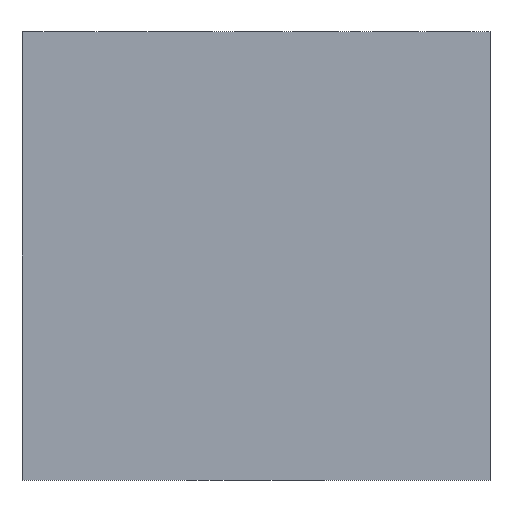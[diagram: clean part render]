
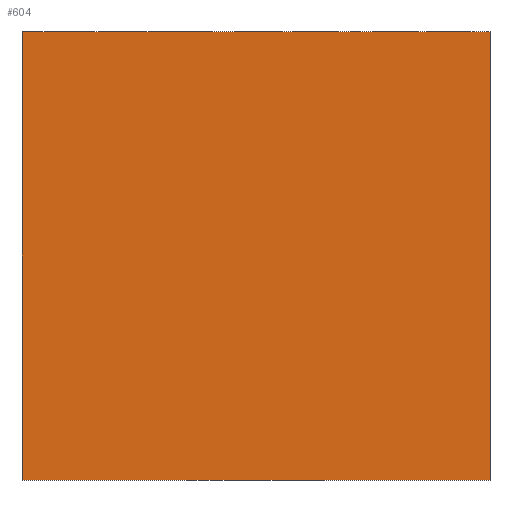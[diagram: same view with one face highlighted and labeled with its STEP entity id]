
A CAD part, front view. The second image highlights one B-rep face of the part: STEP entity #604.
In plain terms, the highlighted planar face has unit normal (0, -1, 0).
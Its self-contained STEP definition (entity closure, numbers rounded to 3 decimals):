
#32 = PLANE('',#33);
#33 = AXIS2_PLACEMENT_3D('',#34,#35,#36);
#34 = CARTESIAN_POINT('',(30.,-61.,19.));
#35 = DIRECTION('',(1.,0.,0.));
#36 = DIRECTION('',(0.,0.,1.));
#128 = PLANE('',#129);
#129 = AXIS2_PLACEMENT_3D('',#130,#131,#132);
#130 = CARTESIAN_POINT('',(30.,-99.,26.5));
#131 = DIRECTION('',(0.,0.,1.));
#132 = DIRECTION('',(1.,0.,0.));
#219 = VERTEX_POINT('',#220);
#220 = CARTESIAN_POINT('',(30.,-99.,26.5));
#241 = EDGE_CURVE('',#242,#219,#244,.T.);
#242 = VERTEX_POINT('',#243);
#243 = CARTESIAN_POINT('',(30.,-99.,15.));
#244 = SURFACE_CURVE('',#245,(#249,#256),.PCURVE_S1.);
#245 = LINE('',#246,#247);
#246 = CARTESIAN_POINT('',(30.,-99.,15.));
#247 = VECTOR('',#248,1.);
#248 = DIRECTION('',(0.,0.,1.));
#249 = PCURVE('',#32,#250);
#250 = DEFINITIONAL_REPRESENTATION('',(#251),#255);
#251 = LINE('',#252,#253);
#252 = CARTESIAN_POINT('',(-4.,38.));
#253 = VECTOR('',#254,1.);
#254 = DIRECTION('',(1.,0.));
#255 = ( GEOMETRIC_REPRESENTATION_CONTEXT(2) 
PARAMETRIC_REPRESENTATION_CONTEXT() REPRESENTATION_CONTEXT('2D SPACE',''
  ) );
#256 = PCURVE('',#257,#262);
#257 = PLANE('',#258);
#258 = AXIS2_PLACEMENT_3D('',#259,#260,#261);
#259 = CARTESIAN_POINT('',(30.,-99.,19.));
#260 = DIRECTION('',(0.,1.,0.));
#261 = DIRECTION('',(0.,0.,1.));
#262 = DEFINITIONAL_REPRESENTATION('',(#263),#267);
#263 = LINE('',#264,#265);
#264 = CARTESIAN_POINT('',(-4.,0.));
#265 = VECTOR('',#266,1.);
#266 = DIRECTION('',(1.,0.));
#267 = ( GEOMETRIC_REPRESENTATION_CONTEXT(2) 
PARAMETRIC_REPRESENTATION_CONTEXT() REPRESENTATION_CONTEXT('2D SPACE',''
  ) );
#285 = PLANE('',#286);
#286 = AXIS2_PLACEMENT_3D('',#287,#288,#289);
#287 = CARTESIAN_POINT('',(30.,-99.,15.));
#288 = DIRECTION('',(0.,0.,1.));
#289 = DIRECTION('',(1.,0.,0.));
#372 = PLANE('',#373);
#373 = AXIS2_PLACEMENT_3D('',#374,#375,#376);
#374 = CARTESIAN_POINT('',(42.,-61.,19.));
#375 = DIRECTION('',(1.,0.,0.));
#376 = DIRECTION('',(0.,0.,1.));
#529 = EDGE_CURVE('',#242,#530,#532,.T.);
#530 = VERTEX_POINT('',#531);
#531 = CARTESIAN_POINT('',(42.,-99.,15.));
#532 = SURFACE_CURVE('',#533,(#537,#544),.PCURVE_S1.);
#533 = LINE('',#534,#535);
#534 = CARTESIAN_POINT('',(30.,-99.,15.));
#535 = VECTOR('',#536,1.);
#536 = DIRECTION('',(1.,0.,0.));
#537 = PCURVE('',#285,#538);
#538 = DEFINITIONAL_REPRESENTATION('',(#539),#543);
#539 = LINE('',#540,#541);
#540 = CARTESIAN_POINT('',(0.,0.));
#541 = VECTOR('',#542,1.);
#542 = DIRECTION('',(1.,0.));
#543 = ( GEOMETRIC_REPRESENTATION_CONTEXT(2) 
PARAMETRIC_REPRESENTATION_CONTEXT() REPRESENTATION_CONTEXT('2D SPACE',''
  ) );
#544 = PCURVE('',#257,#545);
#545 = DEFINITIONAL_REPRESENTATION('',(#546),#550);
#546 = LINE('',#547,#548);
#547 = CARTESIAN_POINT('',(-4.,0.));
#548 = VECTOR('',#549,1.);
#549 = DIRECTION('',(0.,1.));
#550 = ( GEOMETRIC_REPRESENTATION_CONTEXT(2) 
PARAMETRIC_REPRESENTATION_CONTEXT() REPRESENTATION_CONTEXT('2D SPACE',''
  ) );
#604 = ADVANCED_FACE('',(#605),#257,.F.);
#605 = FACE_BOUND('',#606,.F.);
#606 = EDGE_LOOP('',(#607,#630,#631,#632));
#607 = ORIENTED_EDGE('',*,*,#608,.F.);
#608 = EDGE_CURVE('',#530,#609,#611,.T.);
#609 = VERTEX_POINT('',#610);
#610 = CARTESIAN_POINT('',(42.,-99.,26.5));
#611 = SURFACE_CURVE('',#612,(#616,#623),.PCURVE_S1.);
#612 = LINE('',#613,#614);
#613 = CARTESIAN_POINT('',(42.,-99.,15.));
#614 = VECTOR('',#615,1.);
#615 = DIRECTION('',(0.,0.,1.));
#616 = PCURVE('',#257,#617);
#617 = DEFINITIONAL_REPRESENTATION('',(#618),#622);
#618 = LINE('',#619,#620);
#619 = CARTESIAN_POINT('',(-4.,12.));
#620 = VECTOR('',#621,1.);
#621 = DIRECTION('',(1.,0.));
#622 = ( GEOMETRIC_REPRESENTATION_CONTEXT(2) 
PARAMETRIC_REPRESENTATION_CONTEXT() REPRESENTATION_CONTEXT('2D SPACE',''
  ) );
#623 = PCURVE('',#372,#624);
#624 = DEFINITIONAL_REPRESENTATION('',(#625),#629);
#625 = LINE('',#626,#627);
#626 = CARTESIAN_POINT('',(-4.,38.));
#627 = VECTOR('',#628,1.);
#628 = DIRECTION('',(1.,0.));
#629 = ( GEOMETRIC_REPRESENTATION_CONTEXT(2) 
PARAMETRIC_REPRESENTATION_CONTEXT() REPRESENTATION_CONTEXT('2D SPACE',''
  ) );
#630 = ORIENTED_EDGE('',*,*,#529,.F.);
#631 = ORIENTED_EDGE('',*,*,#241,.T.);
#632 = ORIENTED_EDGE('',*,*,#633,.T.);
#633 = EDGE_CURVE('',#219,#609,#634,.T.);
#634 = SURFACE_CURVE('',#635,(#639,#646),.PCURVE_S1.);
#635 = LINE('',#636,#637);
#636 = CARTESIAN_POINT('',(30.,-99.,26.5));
#637 = VECTOR('',#638,1.);
#638 = DIRECTION('',(1.,0.,0.));
#639 = PCURVE('',#257,#640);
#640 = DEFINITIONAL_REPRESENTATION('',(#641),#645);
#641 = LINE('',#642,#643);
#642 = CARTESIAN_POINT('',(7.5,0.));
#643 = VECTOR('',#644,1.);
#644 = DIRECTION('',(0.,1.));
#645 = ( GEOMETRIC_REPRESENTATION_CONTEXT(2) 
PARAMETRIC_REPRESENTATION_CONTEXT() REPRESENTATION_CONTEXT('2D SPACE',''
  ) );
#646 = PCURVE('',#128,#647);
#647 = DEFINITIONAL_REPRESENTATION('',(#648),#652);
#648 = LINE('',#649,#650);
#649 = CARTESIAN_POINT('',(0.,0.));
#650 = VECTOR('',#651,1.);
#651 = DIRECTION('',(1.,0.));
#652 = ( GEOMETRIC_REPRESENTATION_CONTEXT(2) 
PARAMETRIC_REPRESENTATION_CONTEXT() REPRESENTATION_CONTEXT('2D SPACE',''
  ) );
